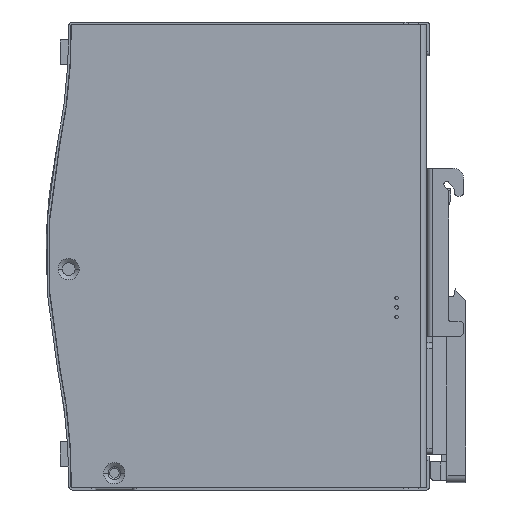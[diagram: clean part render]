
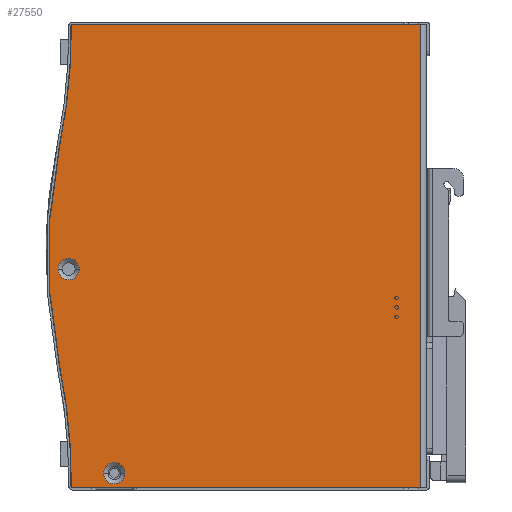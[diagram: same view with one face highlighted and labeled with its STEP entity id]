
A CAD part, front view. The second image highlights one B-rep face of the part: STEP entity #27550.
In plain terms, the highlighted planar face has unit normal (0, -1, 0).
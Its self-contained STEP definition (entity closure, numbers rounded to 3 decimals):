
#380=CARTESIAN_POINT('',(84.453,13.236,74.));
#390=VERTEX_POINT('',#380);
#420=CARTESIAN_POINT('',(0.,13.236,74.));
#430=DIRECTION('',(-1.,0.,0.));
#440=VECTOR('',#430,1.);
#450=LINE('',#420,#440);
#460=CARTESIAN_POINT('',(-8.439,13.236,74.));
#470=VERTEX_POINT('',#460);
#480=EDGE_CURVE('',#390,#470,#450,.T.);
#1140=CARTESIAN_POINT('',(-8.439,13.236,73.5));
#1150=DIRECTION('',(0.,-1.,0.));
#1160=DIRECTION('',(-1.,0.,0.));
#1170=AXIS2_PLACEMENT_3D('',#1140,#1150,#1160);
#1180=CIRCLE('',#1170,0.5);
#1190=CARTESIAN_POINT('',(-8.939,13.236,73.495));
#1200=VERTEX_POINT('',#1190);
#1210=EDGE_CURVE('',#470,#1200,#1180,.T.);
#4120=CARTESIAN_POINT('',(-8.439,13.236,-49.5));
#4130=DIRECTION('',(0.,-1.,0.));
#4140=DIRECTION('',(-1.,0.,0.));
#4150=AXIS2_PLACEMENT_3D('',#4120,#4130,#4140);
#4160=CIRCLE('',#4150,0.5);
#4170=CARTESIAN_POINT('',(-8.939,13.236,-49.495))
;
#4180=VERTEX_POINT('',#4170);
#4190=CARTESIAN_POINT('',(-8.439,13.236,-50.));
#4200=VERTEX_POINT('',#4190);
#4210=EDGE_CURVE('',#4180,#4200,#4160,.T.);
#4540=CARTESIAN_POINT('',(0.,13.236,-50.));
#4550=DIRECTION('',(-1.,0.,0.));
#4560=VECTOR('',#4550,1.);
#4570=LINE('',#4540,#4560);
#4580=CARTESIAN_POINT('',(84.453,13.236,-50.));
#4590=VERTEX_POINT('',#4580);
#4600=EDGE_CURVE('',#4590,#4200,#4570,.T.);
#5530=CARTESIAN_POINT('',(-158.932,13.236,72.019))
;
#5540=DIRECTION('',(0.,-1.,0.));
#5550=DIRECTION('',(0.,0.,-1.));
#5560=AXIS2_PLACEMENT_3D('',#5530,#5540,#5550);
#5570=CIRCLE('',#5560,150.);
#5580=CARTESIAN_POINT('',(-11.964,13.236,42.01));
#5590=VERTEX_POINT('',#5580);
#5600=EDGE_CURVE('',#5590,#1200,#5570,.T.);
#8670=CARTESIAN_POINT('',(-11.964,13.236,-18.01))
;
#8680=VERTEX_POINT('',#8670);
#8710=CARTESIAN_POINT('',(-158.932,13.236,-48.019)
);
#8720=DIRECTION('',(0.,-1.,0.));
#8730=DIRECTION('',(0.,0.,-1.));
#8740=AXIS2_PLACEMENT_3D('',#8710,#8720,#8730);
#8750=CIRCLE('',#8740,150.);
#8760=EDGE_CURVE('',#4180,#8680,#8750,.T.);
#8880=CARTESIAN_POINT('',(135.003,13.236,12.));
#8890=DIRECTION('',(0.,-1.,0.));
#8900=DIRECTION('',(0.,0.,-1.));
#8910=AXIS2_PLACEMENT_3D('',#8880,#8890,#8900);
#8920=CIRCLE('',#8910,150.);
#8930=EDGE_CURVE('',#5590,#8680,#8920,.T.);
#9790=CARTESIAN_POINT('',(-6.797,13.236,8.5))
;
#9800=VERTEX_POINT('',#9790);
#9830=CARTESIAN_POINT('',(-9.647,13.236,8.5))
;
#9840=DIRECTION('',(0.,1.,0.));
#9850=DIRECTION('',(-1.,0.,0.));
#9860=AXIS2_PLACEMENT_3D('',#9830,#9840,#9850);
#9870=CIRCLE('',#9860,2.85);
#9880=CARTESIAN_POINT('',(-12.497,13.236,8.5));
#9890=VERTEX_POINT('',#9880);
#9900=EDGE_CURVE('',#9800,#9890,#9870,.T.);
#22050=EDGE_CURVE('',#9890,#9800,#9870,.T.);
#26710=CARTESIAN_POINT('',(84.453,13.236,0.));
#26720=DIRECTION('',(0.,0.,-1.));
#26730=VECTOR('',#26720,1.);
#26740=LINE('',#26710,#26730);
#26750=EDGE_CURVE('',#390,#4590,#26740,.T.);
#27210=CARTESIAN_POINT('',(-13.667,13.236,0.));
#27220=DIRECTION('',(-0.,-1.,-0.));
#27230=DIRECTION('',(-1.,0.,0.));
#27240=AXIS2_PLACEMENT_3D('',#27210,#27220,#27230);
#27250=PLANE('',#27240);
#27260=ORIENTED_EDGE('',*,*,#22050,.T.);
#27270=ORIENTED_EDGE('',*,*,#9900,.T.);
#27280=EDGE_LOOP('',(#27270,#27260));
#27290=FACE_BOUND('',#27280,.T.);
#27300=CARTESIAN_POINT('',(2.553,13.236,-46.1)
);
#27310=DIRECTION('',(0.,1.,0.));
#27320=DIRECTION('',(-1.,0.,0.));
#27330=AXIS2_PLACEMENT_3D('',#27300,#27310,#27320);
#27340=CIRCLE('',#27330,2.85);
#27350=CARTESIAN_POINT('',(-0.297,13.236,
-46.1));
#27360=VERTEX_POINT('',#27350);
#27370=CARTESIAN_POINT('',(5.403,13.236,-46.1)
);
#27380=VERTEX_POINT('',#27370);
#27390=EDGE_CURVE('',#27360,#27380,#27340,.T.);
#27400=ORIENTED_EDGE('',*,*,#27390,.T.);
#27410=EDGE_CURVE('',#27380,#27360,#27340,.T.);
#27420=ORIENTED_EDGE('',*,*,#27410,.T.);
#27430=EDGE_LOOP('',(#27420,#27400));
#27440=FACE_BOUND('',#27430,.T.);
#27450=ORIENTED_EDGE('',*,*,#4210,.T.);
#27460=ORIENTED_EDGE('',*,*,#8760,.F.);
#27470=ORIENTED_EDGE('',*,*,#8930,.T.);
#27480=ORIENTED_EDGE('',*,*,#5600,.F.);
#27490=ORIENTED_EDGE('',*,*,#1210,.T.);
#27500=ORIENTED_EDGE('',*,*,#480,.T.);
#27510=ORIENTED_EDGE('',*,*,#26750,.F.);
#27520=ORIENTED_EDGE('',*,*,#4600,.F.);
#27530=EDGE_LOOP('',(#27520,#27510,#27500,#27490,#27480,#27470,#27460,
#27450));
#27540=FACE_OUTER_BOUND('',#27530,.T.);
#27550=ADVANCED_FACE('',(#27290,#27440,#27540),#27250,.T.);
